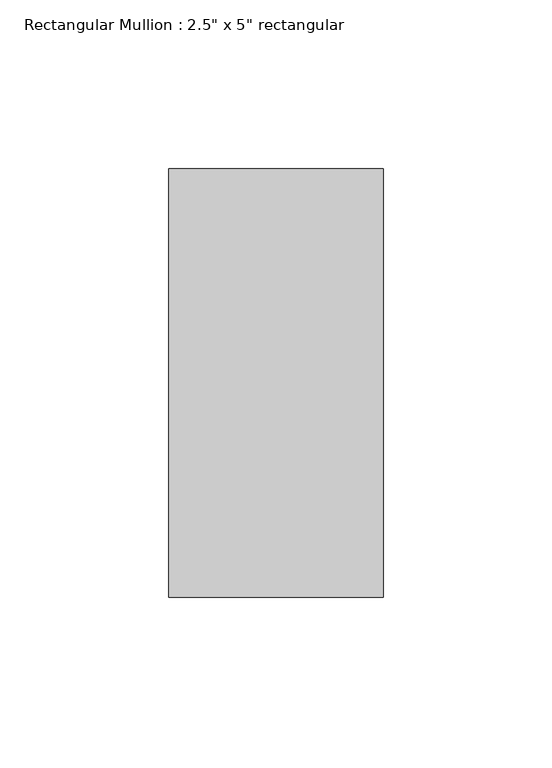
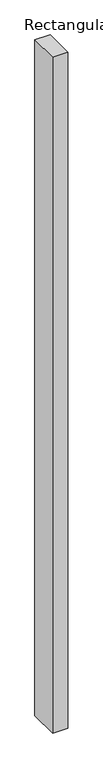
"""IFC4 building model written with IfcOpenShell, lengths in millimetres: member geometry."""

from ifc_helpers import new_model, si_unit, frame, origin, place, context, project, spatial, polyline, outline, extrude, source, transform, mapped, element, save


def member_0c17b8a1(model_context):
    return source(origin(), model_context, "Body", "SweptSolid", [
        extrude(outline(polyline([(0.0, 63.5), (0.0, -63.5), (-63.5, -63.5), (-63.5, 63.5), (0.0, 63.5)])), frame((0.0, 0.0, -2968.625), z_axis=(0.0, 0.0, 1.0), x_axis=(1.0, 0.0, 0.0)), (0.0, 0.0, 1.0), 2968.625),
    ])


if __name__ == "__main__":
    model = new_model("IFC4")
    model_context = context("Model", 3, world=origin())
    ifc_project = project(units=[si_unit("LENGTHUNIT", "METRE", prefix="MILLI")], contexts=[model_context])
    site = spatial("IfcSite", under=ifc_project)
    building = spatial("IfcBuilding", under=site)
    placement = place(None, origin())
    member_shape = member_0c17b8a1(model_context)
    element("IfcMember", 1, ObjectType="Rectangular Mullion : 2.5\" x 5\" rectangular", at=placement, inside=building, context=model_context, shape_type="MappedRepresentation", body=[
        mapped(member_shape, transform((0.0, 0.0, 0.0), x_axis=(1.0, 0.0, 0.0), y_axis=(0.0, 1.0, 0.0), z_axis=(0.0, 0.0, 1.0))),
    ])
    save(model, "model.ifc")
